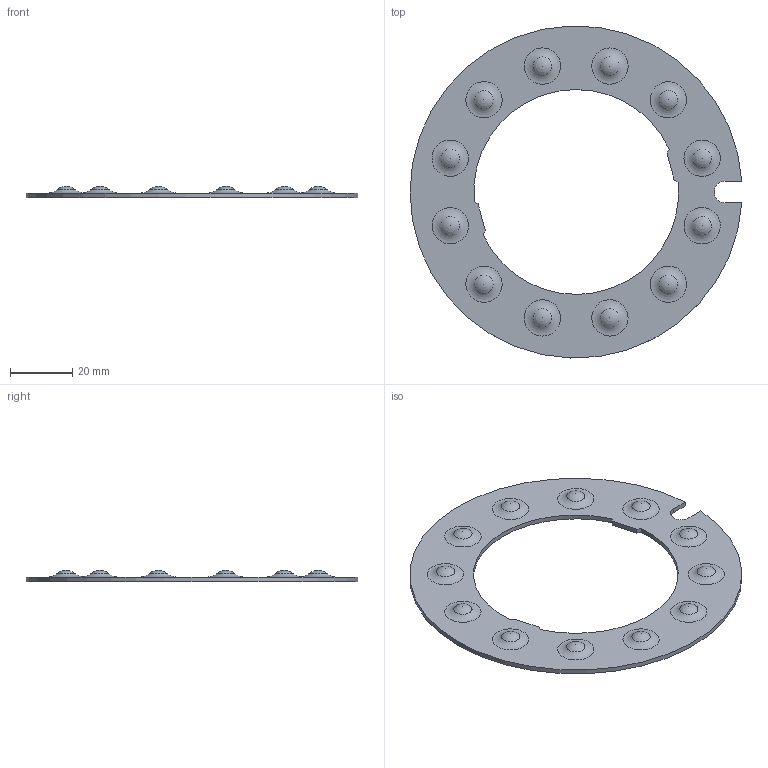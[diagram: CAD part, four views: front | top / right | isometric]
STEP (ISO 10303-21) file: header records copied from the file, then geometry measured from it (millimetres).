
FILE_DESCRIPTION(('STEP AP214'),'1');
FILE_NAME('5122300 Washer..stp','2024-07-03T08:47:21',(' '),(' '),'Spatial InterOp 3D',' ',' ');
FILE_SCHEMA(('AUTOMOTIVE_DESIGN { 1 0 10303 214 1 1 1 1 }'));
Length unit declared in the file: millimetre
Products named in the file (1): 1
Bounding box: 106.89 x 106.94 x 3.65 mm (x, y, z)
Volume: 8465.9 mm3; surface area: 12127.8 mm2
Topology: 1 solids, 1 shells, 62 faces, 191 edges, 131 vertices
Faces by surface type: sphere 24, bspline 12, torus 12, plane 10, cylinder 4
Entity records: 2415 total; most frequent: CARTESIAN_POINT 1347, DIRECTION 194, ORIENTED_EDGE 168, EDGE_LOOP 112, FACE_OUTER_BOUND 86, EDGE_CURVE 84, AXIS2_PLACEMENT_3D 83, VERTEX_POINT 72
